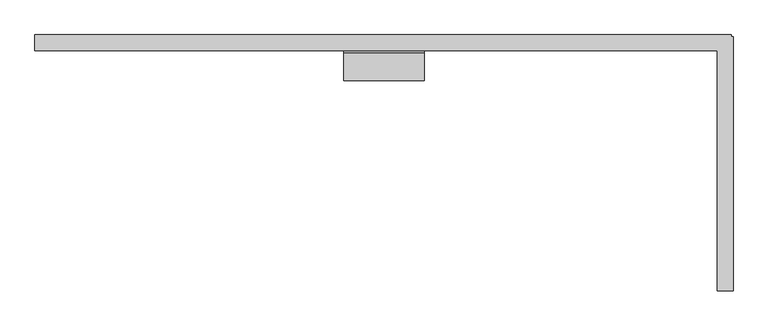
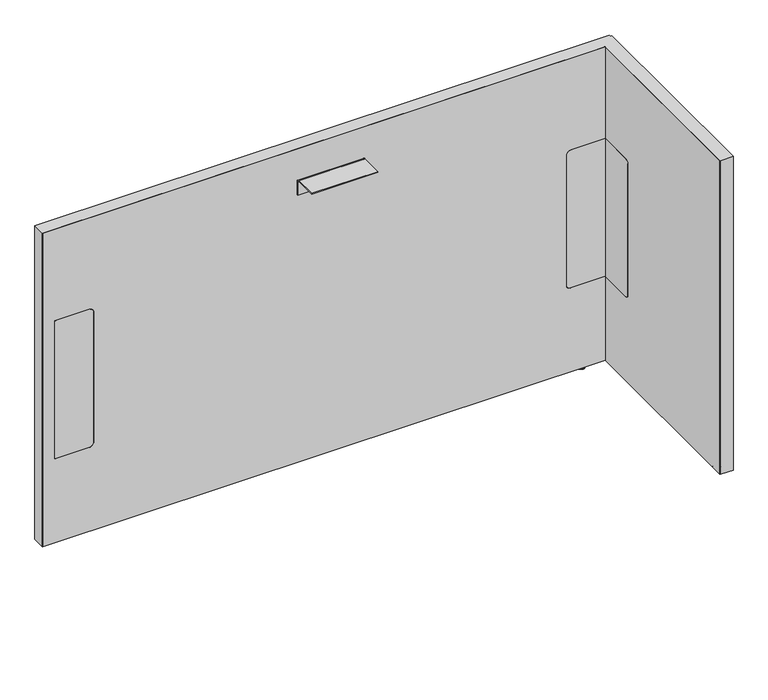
"""IFC4 building model written with IfcOpenShell, lengths in millimetres: furniture geometry, Steelcase - Answer Solution - Boundary Screen - L Return - Single Sided : 30H x 51W."""

from ifc_helpers import new_model, si_unit, point, frame, frame_2d, origin, place, context, project, spatial, polyline, circle_curve, ellipse_curve, trimmed, segment, composite_curve, outline, extrude, faceted_brep, source, transform, mapped, element, save
from ifc_brep_helpers import plane_surface, cylinder_surface, revolved_surface, advanced_brep


def furniture_55e06d27(model_context):
    return source(origin(), model_context, "Body", "SolidModel", [
        extrude(outline(composite_curve([segment(polyline([(-109.3501471, 549.6162029), (-29.0550397, 549.6162029), (-29.0550397, 213.7762137), (-109.3501471, 213.7762137)]), True, "CONTINUOUS"), segment(trimmed(circle_curve(frame_2d((-109.3501471, 223.9362137)), 10.16), [point((-109.3501471, 213.7762137))], [point((-119.5101471, 223.9362137))], False, "CARTESIAN"), True, "CONTINUOUS"), segment(polyline([(-119.5101471, 223.9362137), (-119.5101471, 539.4562029)]), True, "CONTINUOUS"), segment(trimmed(circle_curve(frame_2d((-109.3501471, 539.4562029)), 10.16), [point((-119.5101471, 539.4562029))], [point((-109.3501471, 549.6162029))], False, "CARTESIAN"), True, "CONTINUOUS")], self_intersect=False)), frame((1525.2191891, 0.0, 0.0), z_axis=(1.0, 0.0, 0.0), x_axis=(0.0, 1.0, 0.0)), (0.0, 0.0, 1.0), 0.6401544),
        advanced_brep(
        [(1540.0672074, -448.0136072, 0.0), (1547.0216144, -448.0136072, 0.0), (1533.1128003, -448.0136072, 0.0), (1548.4762685, -448.0136072, 1.2700001), (1531.6581463, -448.0136072, 1.2700001), (1548.4762685, -448.0136072, 2.9673238), (1531.6581463, -448.0136072, 2.9673238), (1549.4427877, -448.0136072, 2.9673238), (1530.691627, -448.0136072, 2.9673238), (1549.4427877, -448.0136072, 9.9059849), (1530.691627, -448.0136072, 9.9059849), (1540.0672074, -448.0136072, 9.9059849)],
        [
            (0, 1),
            (1, 2, circle_curve(frame((1540.0672074, -448.0136072, 0.0), z_axis=(0.0, 0.0, -1.0), x_axis=(1.0, 0.0, 0.0)), 6.9544071)),
            (2, 0),
            (2, 1, circle_curve(frame((1540.0672074, -448.0136072, 0.0), z_axis=(0.0, 0.0, -1.0), x_axis=(1.0, 0.0, 0.0)), 6.9544071)),
            (1, 3, circle_curve(frame((1547.1945484, -448.0136072, 1.2700001), z_axis=(0.0, -1.0, 0.0), x_axis=(0.0, 0.0, 1.0)), 1.2817201)),
            (3, 4, circle_curve(frame((1540.0672074, -448.0136072, 1.2700001), z_axis=(0.0, 0.0, -1.0), x_axis=(1.0, 0.0, 0.0)), 8.4090611)),
            (4, 2, circle_curve(frame((1532.9398663, -448.0136072, 1.2700001), z_axis=(0.0, -1.0, 0.0), x_axis=(0.0, 0.0, 1.0)), 1.2817201)),
            (4, 3, circle_curve(frame((1540.0672074, -448.0136072, 1.2700001), z_axis=(0.0, 0.0, -1.0), x_axis=(1.0, 0.0, 0.0)), 8.4090611)),
            (3, 5),
            (5, 6, circle_curve(frame((1540.0672074, -448.0136072, 2.9673238), z_axis=(0.0, 0.0, -1.0), x_axis=(1.0, 0.0, 0.0)), 8.4090611)),
            (6, 4),
            (6, 5, circle_curve(frame((1540.0672074, -448.0136072, 2.9673238), z_axis=(0.0, 0.0, -1.0), x_axis=(1.0, 0.0, 0.0)), 8.4090611)),
            (5, 7),
            (7, 8, circle_curve(frame((1540.0672074, -448.0136072, 2.9673238), z_axis=(0.0, 0.0, -1.0), x_axis=(1.0, 0.0, 0.0)), 9.3755804)),
            (8, 6),
            (8, 7, circle_curve(frame((1540.0672074, -448.0136072, 2.9673238), z_axis=(0.0, 0.0, -1.0), x_axis=(1.0, 0.0, 0.0)), 9.3755804)),
            (7, 9),
            (9, 10, circle_curve(frame((1540.0672074, -448.0136072, 9.9059849), z_axis=(0.0, 0.0, -1.0), x_axis=(1.0, 0.0, 0.0)), 9.3755804)),
            (10, 8),
            (10, 9, circle_curve(frame((1540.0672074, -448.0136072, 9.9059849), z_axis=(0.0, 0.0, -1.0), x_axis=(1.0, 0.0, 0.0)), 9.3755804)),
            (9, 11),
            (11, 10),
        ],
        [
            plane_surface(frame((1540.0672074, -448.0136072, 0.0), z_axis=(0.0, 0.0, -1.0), x_axis=(1.0, 0.0, 0.0))),
            revolved_surface(trimmed(ellipse_curve(frame((1547.1945484, -448.0136072, 1.2700001), z_axis=(0.0, 1.0, 0.0), x_axis=(0.0, 0.0, 1.0)), 1.2817201, 1.2817201), [point((1548.4762685, -448.0136072, 1.2700001))], [point((1547.0216144, -448.0136072, 0.0))], True, "CARTESIAN"), (1540.0672074, -448.0136072, 9.9059849), (0.0, 0.0, -1.0)),
            cylinder_surface(frame((1540.0672074, -448.0136072, 9.9059849), z_axis=(0.0, 0.0, -1.0), x_axis=(1.0, 0.0, 0.0)), 8.4090611),
            plane_surface(frame((1540.0672074, -448.0136072, 2.9673238), z_axis=(0.0, 0.0, -1.0), x_axis=(1.0, 0.0, 0.0))),
            cylinder_surface(frame((1540.0672074, -448.0136072, 9.9059849), z_axis=(0.0, 0.0, -1.0), x_axis=(1.0, 0.0, 0.0)), 9.3755804),
            plane_surface(frame((1540.0672074, -448.0136072, 9.9059849), z_axis=(0.0, 0.0, 1.0), x_axis=(1.0, 0.0, 0.0))),
        ],
        [
            (0, [[1, 2, 3]]),
            (0, [[-3, 4, -1]]),
            (1, [[-2, 5, 6, 7]]),
            (1, [[-4, -7, 8, -5]]),
            (2, [[-6, 9, 10, 11]]),
            (2, [[-8, -11, 12, -9]]),
            (3, [[-10, 13, 14, 15]]),
            (3, [[-12, -15, 16, -13]]),
            (4, [[-14, 17, 18, 19]]),
            (4, [[-16, -19, 20, -17]]),
            (5, [[-18, 21, 22]]),
            (5, [[-20, -22, -21]]),
        ],
    ),
        faceted_brep([(1551.6531179, 0.0, 772.922), (1551.6531179, 0.0, 9.9059849), (1550.6621491, 0.0, 9.9059849), (1550.6621491, 0.0, 771.942118), (230.8097779, 0.0, 771.942118), (230.8097779, 0.0, 9.9059849), (229.8191891, 0.0, 9.9059849), (229.8191891, 0.0, 772.922), (229.8191891, -29.6898332, 772.922), (229.8191891, -29.6898332, 9.9059849), (230.8097779, -29.6898332, 9.9059849), (230.8097779, -29.6898332, 771.942118), (1525.2191891, -29.6898332, 771.942118), (1525.2191891, -29.6898332, 772.922), (1550.6621491, -29.6898332, 771.942118), (1550.6621491, -29.6898332, 9.9059849), (1551.6531179, -29.6898332, 9.9059849), (1551.6531179, -29.6898332, 771.942118), (1551.6531179, -3.2625916, 772.922), (1551.6531179, -3.2625916, 9.9059849), (1551.6531179, -4.252647, 9.9059849), (1551.6531179, -4.252647, 771.942118), (1554.9152256, -3.2625916, 9.9059849), (1554.9152256, -4.252647, 9.9059849), (1550.6621491, -4.252647, 9.9059849), (1525.2191891, -4.252647, 9.9059849), (1525.2191891, -3.2625916, 9.9059849), (1550.6621491, -3.2625916, 9.9059849), (1525.2191891, -486.8898332, 772.922), (1554.9152256, -486.8898332, 772.922), (1554.9152256, -3.2625916, 772.922), (1550.6621491, -3.2625916, 771.942118), (1550.6621491, -4.252647, 771.942118), (1525.2191891, -3.2625916, 771.942118), (1525.2191891, -4.252647, 771.942118), (1554.9152256, -4.252647, 771.942118), (1554.9152256, -485.899196, 771.942118), (1525.2191891, -485.899196, 771.942118), (1525.2191891, -485.899196, 9.9059849), (1525.2191891, -486.8898332, 9.9059849), (1554.9152256, -486.8898332, 9.9059849), (1554.9152256, -485.899196, 9.9059849)], [[[0, 1, 2, 3, 4, 5, 6, 7]], [[8, 9, 10, 11, 12, 13]], [[14, 15, 16, 17]], [[1, 0, 18, 19]], [[17, 16, 20, 21]], [[2, 1, 19, 22, 23, 20, 16, 15, 24, 25, 26, 27]], [[7, 6, 9, 8]], [[0, 7, 8, 13, 28, 29, 30, 18]], [[3, 2, 27, 31]], [[15, 14, 32, 24]], [[4, 3, 31, 33, 34, 32, 14, 17, 21, 35, 36, 37, 12, 11]], [[5, 4, 11, 10]], [[6, 5, 10, 9]], [[26, 25, 34, 33]], [[37, 38, 39, 28, 13, 12]], [[29, 40, 41, 36, 35, 23, 22, 30]], [[27, 26, 33, 31]], [[30, 22, 19, 18]], [[34, 25, 24, 32]], [[23, 35, 21, 20]], [[38, 37, 36, 41]], [[39, 38, 41, 40]], [[28, 39, 40, 29]]]),
        extrude(outline(composite_curve([segment(polyline([(-86.8398151, 696.4680019), (-86.8398151, 698.5), (-34.9450855, 698.5)]), True, "CONTINUOUS"), segment(trimmed(circle_curve(frame_2d((-34.9450855, 693.2447477)), 5.2552523), [point((-34.9450855, 698.5))], [point((-29.6898332, 693.2447477))], False, "CARTESIAN"), True, "CONTINUOUS"), segment(polyline([(-29.6898332, 693.2447477), (-29.6898332, 660.4), (-31.7218162, 660.4), (-31.7218162, 693.0058743)]), True, "CONTINUOUS"), segment(trimmed(circle_curve(frame_2d((-35.1839438, 693.0058743)), 3.4621276), [point((-31.7218162, 693.0058743))], [point((-35.1839438, 696.4680019))], True, "CARTESIAN"), True, "CONTINUOUS"), segment(polyline([(-35.1839438, 696.4680019), (-86.8398151, 696.4680019)]), True, "CONTINUOUS")], self_intersect=False)), frame((816.1685899, 0.0, 0.0), z_axis=(1.0, 0.0, 0.0), x_axis=(0.0, 1.0, 0.0)), (0.0, 0.0, 1.0), 152.4000969),
        advanced_brep(
        [(1477.7246853, -23.7588726, 9.9059849), (1477.7246853, -5.9309607, 9.9059849), (1477.7246853, -14.8449166, 9.9059849), (1477.7246853, -23.7588726, 2.9673238), (1477.7246853, -5.9309607, 2.9673238), (1477.7246853, -22.7915354, 2.9673238), (1477.7246853, -6.8982978, 2.9673238), (1477.7246853, -22.7915354, 1.6569081), (1477.7246853, -6.8982978, 1.6569081), (1477.7246853, -21.1346274, 0.0), (1477.7246853, -8.5552059, 0.0), (1477.7246853, -14.8449166, 0.0)],
        [
            (0, 1, circle_curve(frame((1477.7246853, -14.8449166, 9.9059849), z_axis=(0.0, 0.0, 1.0), x_axis=(0.0, 1.0, 0.0)), 8.913956)),
            (1, 2),
            (2, 0),
            (1, 0, circle_curve(frame((1477.7246853, -14.8449166, 9.9059849), z_axis=(0.0, 0.0, 1.0), x_axis=(0.0, 1.0, 0.0)), 8.913956)),
            (3, 4, circle_curve(frame((1477.7246853, -14.8449166, 2.9673238), z_axis=(0.0, 0.0, 1.0), x_axis=(0.0, 1.0, 0.0)), 8.913956)),
            (4, 1),
            (0, 3),
            (4, 3, circle_curve(frame((1477.7246853, -14.8449166, 2.9673238), z_axis=(0.0, 0.0, 1.0), x_axis=(0.0, 1.0, 0.0)), 8.913956)),
            (5, 6, circle_curve(frame((1477.7246853, -14.8449166, 2.9673238), z_axis=(0.0, 0.0, 1.0), x_axis=(0.0, 1.0, 0.0)), 7.9466188)),
            (6, 4),
            (3, 5),
            (6, 5, circle_curve(frame((1477.7246853, -14.8449166, 2.9673238), z_axis=(0.0, 0.0, 1.0), x_axis=(0.0, 1.0, 0.0)), 7.9466188)),
            (7, 8, circle_curve(frame((1477.7246853, -14.8449166, 1.6569081), z_axis=(0.0, 0.0, 1.0), x_axis=(0.0, 1.0, 0.0)), 7.9466188)),
            (8, 6),
            (5, 7),
            (8, 7, circle_curve(frame((1477.7246853, -14.8449166, 1.6569081), z_axis=(0.0, 0.0, 1.0), x_axis=(0.0, 1.0, 0.0)), 7.9466188)),
            (9, 10, circle_curve(frame((1477.7246853, -14.8449166, 0.0), z_axis=(0.0, 0.0, 1.0), x_axis=(0.0, 1.0, 0.0)), 6.2897107)),
            (10, 8, circle_curve(frame((1477.7246853, -8.5552059, 1.6569081), z_axis=(1.0, 0.0, 0.0), x_axis=(0.0, 1.0, 0.0)), 1.6569081)),
            (7, 9, circle_curve(frame((1477.7246853, -21.1346274, 1.6569081), z_axis=(1.0, 0.0, 0.0), x_axis=(0.0, -1.0, 0.0)), 1.6569081)),
            (10, 9, circle_curve(frame((1477.7246853, -14.8449166, 0.0), z_axis=(0.0, 0.0, 1.0), x_axis=(0.0, 1.0, 0.0)), 6.2897107)),
            (11, 10),
            (9, 11),
        ],
        [
            plane_surface(frame((1477.7246853, -14.8449166, 9.9059849), z_axis=(0.0, 0.0, 1.0), x_axis=(0.0, 1.0, 0.0))),
            cylinder_surface(frame((1477.7246853, -14.8449166, 9.9059849), z_axis=(0.0, 0.0, -1.0), x_axis=(0.0, 1.0, 0.0)), 8.913956),
            plane_surface(frame((1477.7246853, -14.8449166, 2.9673238), z_axis=(0.0, 0.0, -1.0), x_axis=(0.0, 1.0, 0.0))),
            cylinder_surface(frame((1477.7246853, -14.8449166, 9.9059849), z_axis=(0.0, 0.0, -1.0), x_axis=(0.0, 1.0, 0.0)), 7.9466188),
            revolved_surface(trimmed(ellipse_curve(frame((1477.7246853, -8.5552059, 1.6569081), z_axis=(-1.0, 0.0, 0.0), x_axis=(0.0, 1.0, 0.0)), 1.6569081, 1.6569081), [point((1477.7246853, -6.8982978, 1.6569081))], [point((1477.7246853, -8.5552059, 0.0))], True, "CARTESIAN"), (1477.7246853, -14.8449166, 9.9059849), (0.0, 0.0, -1.0)),
            plane_surface(frame((1477.7246853, -14.8449166, 0.0), z_axis=(0.0, 0.0, -1.0), x_axis=(0.0, 1.0, 0.0))),
        ],
        [
            (0, [[1, 2, 3]]),
            (0, [[4, -3, -2]]),
            (1, [[5, 6, -1, 7]]),
            (1, [[8, -7, -4, -6]]),
            (2, [[9, 10, -5, 11]]),
            (2, [[12, -11, -8, -10]]),
            (3, [[13, 14, -9, 15]]),
            (3, [[16, -15, -12, -14]]),
            (4, [[17, 18, -13, 19]]),
            (4, [[20, -19, -16, -18]]),
            (5, [[21, -17, 22]]),
            (5, [[-22, -20, -21]]),
        ],
    ),
        advanced_brep(
        [(230.8097779, 0.0, 771.942118), (1550.6621491, 0.0, 771.942118), (1550.6621491, 0.0, 9.9059849), (230.8097779, 0.0, 9.9059849), (347.9483813, -29.0550397, 539.4562029), (337.7883813, -29.0550397, 549.6162029), (258.1344836, -29.0550397, 549.6162029), (258.1344836, -29.0550397, 213.7762137), (337.7883813, -29.0550397, 213.7762137), (347.9483813, -29.0550397, 223.9362137), (1525.8593435, -29.0550397, 213.7762137), (1525.8593435, -29.0550397, 549.6162029), (1445.3109268, -29.0550397, 549.6162029), (1435.1509268, -29.0550397, 539.4562029), (1435.1509268, -29.0550397, 223.9362137), (1445.3109268, -29.0550397, 213.7762137), (230.8097779, -29.6898332, 771.942118), (230.8097779, -29.6898332, 9.9059849), (1525.2191891, -29.6898332, 9.9059849), (1525.2191891, -29.6898332, 213.7762137), (1445.3109268, -29.6898332, 213.7762137), (1435.1509268, -29.6898332, 223.9362137), (1435.1509268, -29.6898332, 539.4562029), (1445.3109268, -29.6898332, 549.6162029), (1525.2191891, -29.6898332, 549.6162029), (1525.2191891, -29.6898332, 771.942118), (337.7883813, -29.6898332, 549.6162029), (347.9483813, -29.6898332, 539.4562029), (347.9483813, -29.6898332, 223.9362137), (337.7883813, -29.6898332, 213.7762137), (258.1344836, -29.6898332, 213.7762137), (258.1344836, -29.6898332, 549.6162029), (1550.6621491, -4.252647, 9.9059849), (1554.9152256, -4.252647, 9.9059849), (1554.9152256, -485.899196, 9.9059849), (1525.2191891, -485.899196, 9.9059849), (1550.6621491, -4.252647, 771.942118), (1525.2191891, -485.899196, 771.942118), (1554.9152256, -485.899196, 771.942118), (1554.9152256, -4.252647, 771.942118), (1525.8593435, -109.3501471, 549.6162029), (1525.2191891, -109.3501471, 549.6162029), (1525.8593435, -109.3501471, 213.7762137), (1525.8593435, -119.5101471, 223.9362137), (1525.8593435, -119.5101471, 539.4562029), (1525.2191891, -109.3501471, 213.7762137), (1525.2191891, -119.5101471, 539.4562029), (1525.2191891, -119.5101471, 223.9362137)],
        [
            (0, 1),
            (1, 2),
            (2, 3),
            (3, 0),
            (4, 5, circle_curve(frame((337.7883813, -29.0550397, 539.4562029), z_axis=(0.0, -1.0, 0.0), x_axis=(0.0, 0.0, 1.0)), 10.16)),
            (5, 6),
            (6, 7),
            (7, 8),
            (8, 9, circle_curve(frame((337.7883813, -29.0550397, 223.9362137), z_axis=(0.0, -1.0, 0.0), x_axis=(0.0, 0.0, 1.0)), 10.16)),
            (9, 4),
            (10, 11),
            (11, 12),
            (12, 13, circle_curve(frame((1445.3109268, -29.0550397, 539.4562029), z_axis=(0.0, -1.0, 0.0), x_axis=(0.0, 0.0, 1.0)), 10.16)),
            (13, 14),
            (14, 15, circle_curve(frame((1445.3109268, -29.0550397, 223.9362137), z_axis=(0.0, -1.0, 0.0), x_axis=(0.0, 0.0, 1.0)), 10.16)),
            (15, 10),
            (16, 17),
            (17, 18),
            (18, 19),
            (19, 20),
            (20, 21, circle_curve(frame((1445.3109268, -29.6898332, 223.9362137), z_axis=(0.0, 1.0, 0.0), x_axis=(0.0, 0.0, 1.0)), 10.16)),
            (21, 22),
            (22, 23, circle_curve(frame((1445.3109268, -29.6898332, 539.4562029), z_axis=(0.0, 1.0, 0.0), x_axis=(0.0, 0.0, 1.0)), 10.16)),
            (23, 24),
            (24, 25),
            (25, 16),
            (26, 27, circle_curve(frame((337.7883813, -29.6898332, 539.4562029), z_axis=(0.0, 1.0, 0.0), x_axis=(0.0, 0.0, 1.0)), 10.16)),
            (27, 28),
            (28, 29, circle_curve(frame((337.7883813, -29.6898332, 223.9362137), z_axis=(0.0, 1.0, 0.0), x_axis=(0.0, 0.0, 1.0)), 10.16)),
            (29, 30),
            (30, 31),
            (31, 26),
            (16, 0),
            (3, 17),
            (2, 32),
            (32, 33),
            (33, 34),
            (34, 35),
            (35, 18),
            (1, 36),
            (36, 32),
            (25, 37),
            (37, 38),
            (38, 39),
            (39, 36),
            (26, 5),
            (4, 27),
            (9, 28),
            (8, 29),
            (7, 30),
            (6, 31),
            (11, 40),
            (40, 41),
            (41, 24),
            (23, 12),
            (42, 43, circle_curve(frame((1525.8593435, -109.3501471, 223.9362137), z_axis=(-1.0, 0.0, 0.0), x_axis=(0.0, 1.0, 0.0)), 10.16)),
            (43, 44),
            (44, 40, circle_curve(frame((1525.8593435, -109.3501471, 539.4562029), z_axis=(-1.0, 0.0, 0.0), x_axis=(0.0, 1.0, 0.0)), 10.16)),
            (10, 42),
            (15, 20),
            (19, 45),
            (45, 42),
            (14, 21),
            (13, 22),
            (35, 37),
            (41, 46, circle_curve(frame((1525.2191891, -109.3501471, 539.4562029), z_axis=(1.0, 0.0, 0.0), x_axis=(0.0, 1.0, 0.0)), 10.16)),
            (46, 47),
            (47, 45, circle_curve(frame((1525.2191891, -109.3501471, 223.9362137), z_axis=(1.0, 0.0, 0.0), x_axis=(0.0, 1.0, 0.0)), 10.16)),
            (38, 34),
            (33, 39),
            (44, 46),
            (43, 47),
        ],
        [
            plane_surface(frame((347.9483813, 0.0, 549.6162029), z_axis=(0.0, 1.0, 0.0), x_axis=(0.0, 0.0, -1.0))),
            plane_surface(frame((347.9483813, -29.0550397, 549.6162029), z_axis=(0.0, -1.0, 0.0), x_axis=(0.0, 0.0, 1.0))),
            plane_surface(frame((1550.6621491, -29.6898332, 771.942118), z_axis=(0.0, -1.0, 0.0), x_axis=(-1.0, 0.0, 0.0))),
            plane_surface(frame((230.8097779, 0.0, 9.9059849), z_axis=(-1.0, 0.0, 0.0), x_axis=(0.0, -1.0, 0.0))),
            plane_surface(frame((1550.6621491, 0.0, 9.9059849), z_axis=(0.0, 0.0, -1.0), x_axis=(0.0, -1.0, 0.0))),
            plane_surface(frame((1550.6621491, 0.0, 771.942118), z_axis=(1.0, 0.0, 0.0), x_axis=(0.0, -1.0, 0.0))),
            plane_surface(frame((230.8097779, 0.0, 771.942118), z_axis=(0.0, 0.0, 1.0), x_axis=(0.0, -1.0, 0.0))),
            revolved_surface(polyline([(337.7883813, -29.6898332, 549.6162029), (337.7883813, -29.0550397, 549.6162029)]), (337.7883813, -29.6898332, 539.4562029), (0.0, -1.0, 0.0)),
            plane_surface(frame((347.9483813, 0.0, 223.9362137), z_axis=(-1.0, 0.0, 0.0), x_axis=(0.0, -1.0, 0.0))),
            revolved_surface(polyline([(337.7883813, -29.6898332, 234.0962137), (337.7883813, -29.0550397, 234.0962137)]), (337.7883813, -29.6898332, 223.9362137), (0.0, -1.0, 0.0)),
            plane_surface(frame((258.1344836, 0.0, 213.7762137), z_axis=(0.0, 0.0, 1.0), x_axis=(0.0, -1.0, 0.0))),
            plane_surface(frame((258.1344836, 0.0, 549.6162029), z_axis=(1.0, 0.0, 0.0), x_axis=(0.0, -1.0, 0.0))),
            plane_surface(frame((337.7883813, 0.0, 549.6162029), z_axis=(0.0, 0.0, -1.0), x_axis=(0.0, -1.0, 0.0))),
            plane_surface(frame((1525.8593435, 0.0, 549.6162029), z_axis=(0.0, 0.0, -1.0), x_axis=(0.0, -1.0, 0.0))),
            plane_surface(frame((1525.8593435, 0.0, 213.7762137), z_axis=(-1.0, 0.0, 0.0), x_axis=(0.0, -1.0, 0.0))),
            plane_surface(frame((1445.3109268, 0.0, 213.7762137), z_axis=(0.0, 0.0, 1.0), x_axis=(0.0, -1.0, 0.0))),
            revolved_surface(polyline([(1445.3109268, -29.6898332, 234.0962137), (1445.3109268, -29.0550397, 234.0962137)]), (1445.3109268, -29.6898332, 223.9362137), (0.0, -1.0, 0.0)),
            plane_surface(frame((1435.1509268, 0.0, 539.4562029), z_axis=(1.0, 0.0, 0.0), x_axis=(0.0, -1.0, 0.0))),
            revolved_surface(polyline([(1445.3109268, -29.6898332, 549.6162029), (1445.3109268, -29.0550397, 549.6162029)]), (1445.3109268, -29.6898332, 539.4562029), (0.0, -1.0, 0.0)),
            plane_surface(frame((1525.2191891, -485.899196, 771.942118), z_axis=(-1.0, 0.0, 0.0), x_axis=(0.0, 0.0, 1.0))),
            plane_surface(frame((1554.9152256, -485.899196, 771.942118), z_axis=(1.0, 0.0, 0.0), x_axis=(0.0, 0.0, -1.0))),
            plane_surface(frame((1554.9152256, -4.252647, 9.9059849), z_axis=(0.0, 1.0, 0.0), x_axis=(-1.0, 0.0, 0.0))),
            plane_surface(frame((1554.9152256, -485.899196, 771.942118), z_axis=(0.0, -1.0, 0.0), x_axis=(-1.0, 0.0, 0.0))),
            revolved_surface(polyline([(1525.2191891, -99.1901471, 539.4562029), (1525.8593435, -99.1901471, 539.4562029)]), (-340.6902705, -109.3501471, 539.4562029), (-1.0, 0.0, 0.0)),
            plane_surface(frame((1554.9152256, -119.5101471, 223.9362137), z_axis=(0.0, 1.0, 0.0), x_axis=(-1.0, 0.0, 0.0))),
            revolved_surface(polyline([(1525.2191891, -99.1901471, 223.9362137), (1525.8593435, -99.1901471, 223.9362137)]), (-340.6902705, -109.3501471, 223.9362137), (-1.0, 0.0, 0.0)),
        ],
        [
            (0, [[1, 2, 3, 4]]),
            (1, [[5, 6, 7, 8, 9, 10]]),
            (1, [[11, 12, 13, 14, 15, 16]]),
            (2, [[17, 18, 19, 20, 21, 22, 23, 24, 25, 26], [27, 28, 29, 30, 31, 32]]),
            (3, [[-17, 33, -4, 34]]),
            (4, [[-3, 35, 36, 37, 38, 39, -18, -34]]),
            (5, [[-2, 40, 41, -35]]),
            (6, [[-1, -33, -26, 42, 43, 44, 45, -40]]),
            (7, [[-27, 46, -5, 47]]),
            (8, [[-28, -47, -10, 48]]),
            (9, [[-29, -48, -9, 49]]),
            (10, [[-30, -49, -8, 50]]),
            (11, [[-31, -50, -7, 51]]),
            (12, [[-32, -51, -6, -46]]),
            (13, [[52, 53, 54, -24, 55, -12]]),
            (14, [[56, 57, 58, -52, -11, 59]]),
            (15, [[-59, -16, 60, -20, 61, 62]]),
            (16, [[-21, -60, -15, 63]]),
            (17, [[-22, -63, -14, 64]]),
            (18, [[-23, -64, -13, -55]]),
            (19, [[65, -42, -25, -54, 66, 67, 68, -61, -19, -39]]),
            (20, [[69, -37, 70, -44]]),
            (21, [[-70, -36, -41, -45]]),
            (22, [[-65, -38, -69, -43]]),
            (23, [[-66, -53, -58, 71]]),
            (24, [[-67, -71, -57, 72]]),
            (25, [[-68, -72, -56, -62]]),
        ],
    ),
        extrude(outline(composite_curve([segment(polyline([(549.6162029, 337.7883813), (549.6162029, 258.1344836), (213.7762137, 258.1344836), (213.7762137, 337.7883813)]), True, "CONTINUOUS"), segment(trimmed(circle_curve(frame_2d((223.9362137, 337.7883813)), 10.16), [point((213.7762137, 337.7883813))], [point((223.9362137, 347.9483813))], False, "CARTESIAN"), True, "CONTINUOUS"), segment(polyline([(223.9362137, 347.9483813), (539.4562029, 347.9483813)]), True, "CONTINUOUS"), segment(trimmed(circle_curve(frame_2d((539.4562029, 337.7883813)), 10.16), [point((539.4562029, 347.9483813))], [point((549.6162029, 337.7883813))], False, "CARTESIAN"), True, "CONTINUOUS")], self_intersect=False)), frame((0.0, -29.6898332, 0.0), z_axis=(0.0, 1.0, 0.0), x_axis=(0.0, 0.0, 1.0)), (0.0, 0.0, 1.0), 0.6347935),
        extrude(outline(composite_curve([segment(trimmed(circle_curve(frame_2d((539.4562029, 1445.3109268)), 10.16), [point((549.6162029, 1445.3109268))], [point((539.4562029, 1435.1509268))], False, "CARTESIAN"), True, "CONTINUOUS"), segment(polyline([(539.4562029, 1435.1509268), (223.9362137, 1435.1509268)]), True, "CONTINUOUS"), segment(trimmed(circle_curve(frame_2d((223.9362137, 1445.3109268)), 10.16), [point((223.9362137, 1435.1509268))], [point((213.7762137, 1445.3109268))], False, "CARTESIAN"), True, "CONTINUOUS"), segment(polyline([(213.7762137, 1445.3109268), (213.7762137, 1525.2191891), (549.6162029, 1525.2191891), (549.6162029, 1445.3109268)]), True, "CONTINUOUS")], self_intersect=False)), frame((0.0, -29.6898332, 0.0), z_axis=(0.0, 1.0, 0.0), x_axis=(0.0, 0.0, 1.0)), (0.0, 0.0, 1.0), 0.6347935),
    ])


if __name__ == "__main__":
    model = new_model("IFC4")
    model_context = context("Model", 3, world=origin())
    ifc_project = project(units=[si_unit("LENGTHUNIT", "METRE", prefix="MILLI")], contexts=[model_context])
    site = spatial("IfcSite", under=ifc_project)
    building = spatial("IfcBuilding", under=site)
    placement = place(None, origin())
    furniture_shape = furniture_55e06d27(model_context)
    element("IfcFurniture", 1, ObjectType="Steelcase - Answer Solution - Boundary Screen - L Return - Single Sided : 30H x 51W", at=placement, inside=building, context=model_context, shape_type="MappedRepresentation", body=[
        mapped(furniture_shape, transform((0.0, 0.0, 0.0), x_axis=(1.0, 0.0, 0.0), y_axis=(0.0, 1.0, 0.0), z_axis=(0.0, 0.0, 1.0))),
    ])
    save(model, "model.ifc")
